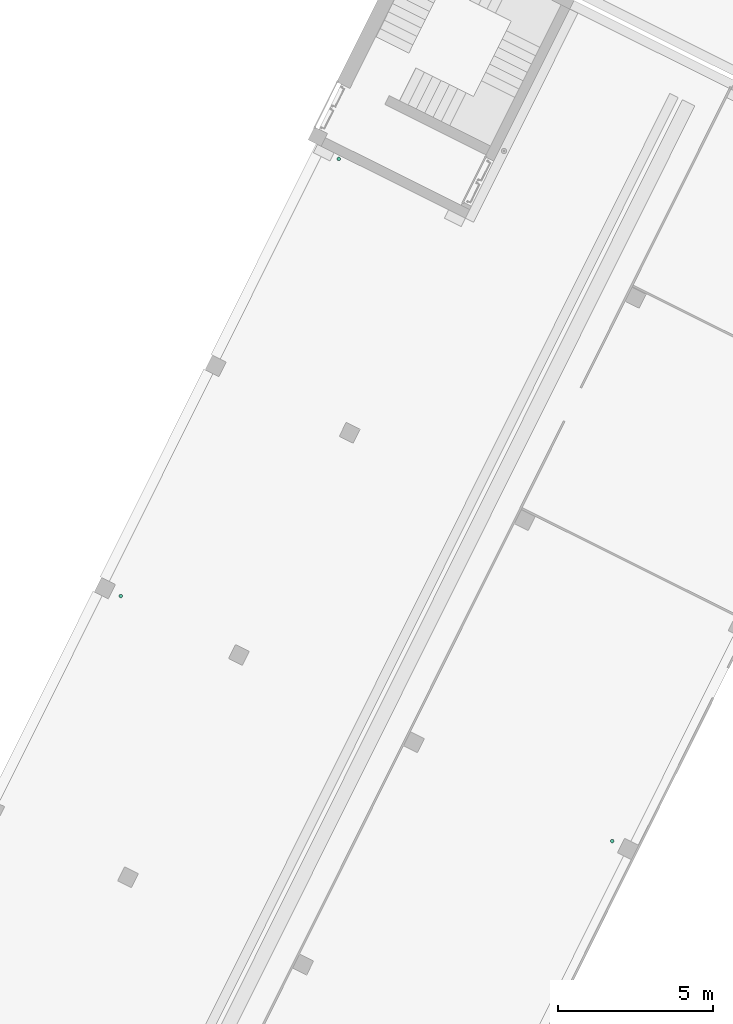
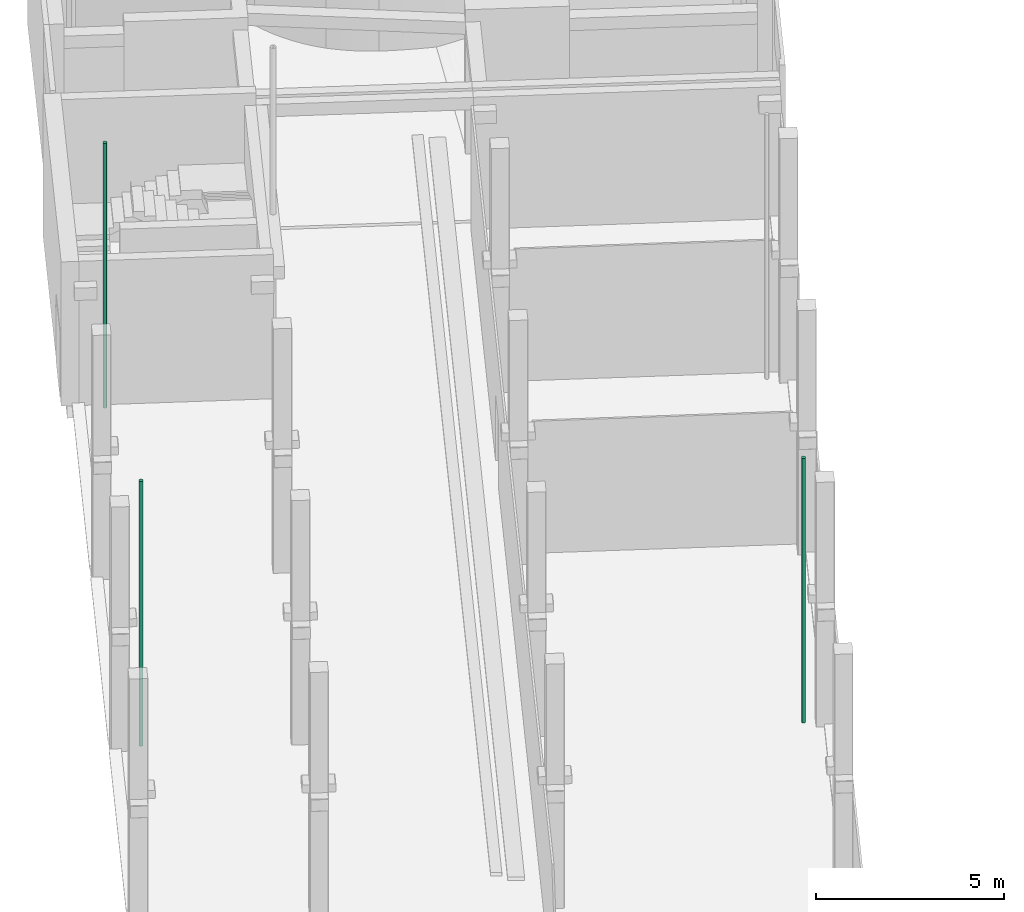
# One storey, part 67 of 91: 3 flow segments.
"""IFC2X3 building model written with IfcOpenShell, lengths in metres."""

from ifc_helpers import new_model, entity, si_unit, converted_unit, derived_unit, direction, frame, origin, origin_2d_with_axis, place, context, subcontext, project, spatial, circle, extrude, type_object, element, save


model = new_model("IFC2X3")

# Units and contexts
model_context = context("Model", 3, precision=1e-05, world=origin(), true_north=direction((0.894925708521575, 0.446215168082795)))
context_of_model = context(None, 3, precision=1e-05, world=origin(), true_north=direction((0.894925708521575, 0.446215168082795)))
body_context = subcontext(model_context, "Body", "Model", "MODEL_VIEW")
ifc_project = project(units=[si_unit("LENGTHUNIT", "METRE"), si_unit("AREAUNIT", "SQUARE_METRE"), si_unit("VOLUMEUNIT", "CUBIC_METRE"), converted_unit("PLANEANGLEUNIT", "DEGREE", entity("IfcRatioMeasure", 0.0174532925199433), si_unit("PLANEANGLEUNIT", "RADIAN"), dimensions=[0, 0, 0, 0, 0, 0, 0]), si_unit("MASSUNIT", "GRAM", prefix="KILO"), si_unit("TIMEUNIT", "SECOND"), si_unit("FREQUENCYUNIT", "HERTZ"), si_unit("THERMODYNAMICTEMPERATUREUNIT", "DEGREE_CELSIUS"), derived_unit("THERMALTRANSMITTANCEUNIT", [(si_unit("MASSUNIT", "GRAM", prefix="KILO"), 1), (si_unit("THERMODYNAMICTEMPERATUREUNIT", "KELVIN"), -1), (si_unit("TIMEUNIT", "SECOND"), -3)]), derived_unit("VOLUMETRICFLOWRATEUNIT", [(si_unit("LENGTHUNIT", "METRE"), 3), (si_unit("TIMEUNIT", "SECOND"), -1)]), si_unit("ELECTRICCURRENTUNIT", "AMPERE"), si_unit("ELECTRICVOLTAGEUNIT", "VOLT"), si_unit("POWERUNIT", "WATT"), si_unit("FORCEUNIT", "NEWTON", prefix="KILO"), si_unit("ILLUMINANCEUNIT", "LUX"), si_unit("LUMINOUSFLUXUNIT", "LUMEN"), si_unit("LUMINOUSINTENSITYUNIT", "CANDELA"), si_unit("PRESSUREUNIT", "PASCAL")], contexts=[model_context, context_of_model])

# Site, building, storey
site_placement = place(None, frame((218.228324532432, 584.720189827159, 0.0), z_axis=(0.0, 0.0, 1.0), x_axis=(0.446215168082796, 0.894925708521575, 0.0)))
site = spatial("IfcSite", under=ifc_project, at=site_placement, Name="Default", CompositionType="ELEMENT")
building_placement = place(site_placement, origin())
building = spatial("IfcBuilding", under=site, at=building_placement, CompositionType="ELEMENT")
storey_placement = place(building_placement, origin())
storey = spatial("IfcBuildingStorey", under=building, at=storey_placement, Name="0 - Piano Terra", CompositionType="ELEMENT", Elevation=0.0)

# Flow segments
pipe_segment_type = type_object("IfcPipeSegmentType", Name="Tubazione:Pluviale-Tubazione", PredefinedType="NOTDEFINED")
for number, where, name in (
    (1, (35.1077508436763, 5.24017573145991, 0.0), "Tubazione:Pluviale-Tubazione"),
    (2, (50.8346917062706, 5.24017573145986, 0.0), "Tubazione:Pluviale-Tubazione"),
):
    element("IfcFlowSegment", number, at=place(storey_placement, frame(where)), inside=storey, type_object=pipe_segment_type, Name=name, ObjectType="Tubazione:Pluviale-Tubazione", context=body_context, shape_type="SweptSolid", body=[
        extrude(circle(Radius=0.05715, at=origin_2d_with_axis()), frame((0.0587452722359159, 0.0587452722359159, 0.0)), (0.0, 0.0, 1.0), 8.61),
    ])
flow_segment_placement = place(storey_placement, frame((35.1077508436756, -12.4398242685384, 0.0)))
element("IfcFlowSegment", 3, at=flow_segment_placement, inside=storey, type_object=pipe_segment_type, Name="Tubazione:Pluviale-Tubazione", ObjectType="Tubazione:Pluviale-Tubazione", context=body_context, shape_type="SweptSolid", body=[
    extrude(circle(Radius=0.05715, at=origin_2d_with_axis()), frame((0.0587452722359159, 0.0587452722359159, 0.0)), (0.0, 0.0, 1.0), 8.6),
])

save(model, "model.ifc")
